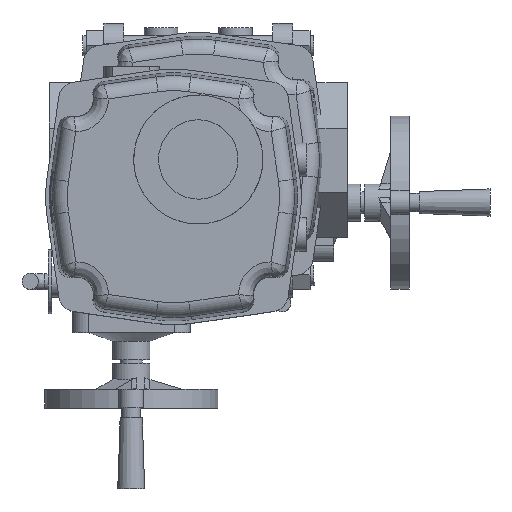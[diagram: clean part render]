
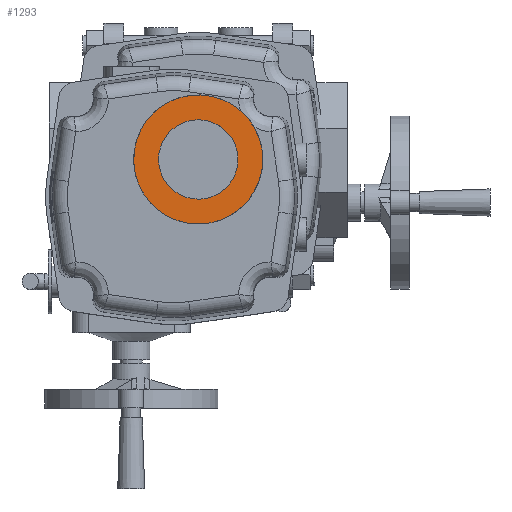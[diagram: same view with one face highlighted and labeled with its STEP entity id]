
A CAD part, top view. The second image highlights one B-rep face of the part: STEP entity #1293.
In plain terms, the highlighted planar face has unit normal (0, 0, 1).
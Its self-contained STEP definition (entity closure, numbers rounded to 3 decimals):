
#1293 = ADVANCED_FACE( '', ( #3025, #3026 ), #3027, .F. );
#3025 = FACE_BOUND( '', #8341, .T. );
#3026 = FACE_OUTER_BOUND( '', #8342, .T. );
#3027 = PLANE( '', #8343 );
#8341 = EDGE_LOOP( '', ( #16921 ) );
#8342 = EDGE_LOOP( '', ( #16922 ) );
#8343 = AXIS2_PLACEMENT_3D( '', #16923, #16924, #16925 );
#16921 = ORIENTED_EDGE( '', *, *, #21467, .T. );
#16922 = ORIENTED_EDGE( '', *, *, #20381, .F. );
#16923 = CARTESIAN_POINT( '', ( -30., 20., 132. ) );
#16924 = DIRECTION( '', ( 0., 0., -1. ) );
#16925 = DIRECTION( '', ( -1., 0., 0. ) );
#20381 = EDGE_CURVE( '', #22892, #22892, #22893, .T. );
#21467 = EDGE_CURVE( '', #24627, #24627, #24628, .T. );
#22892 = VERTEX_POINT( '', #27152 );
#22893 = CIRCLE( '', #27153, 52. );
#24627 = VERTEX_POINT( '', #34282 );
#24628 = CIRCLE( '', #34283, 32. );
#27152 = CARTESIAN_POINT( '', ( -37.499, -31.456, 132. ) );
#27153 = AXIS2_PLACEMENT_3D( '', #39130, #39131, #39132 );
#34282 = CARTESIAN_POINT( '', ( -34.615, -11.666, 132. ) );
#34283 = AXIS2_PLACEMENT_3D( '', #39980, #39981, #39982 );
#39130 = CARTESIAN_POINT( '', ( -30., 20., 132. ) );
#39131 = DIRECTION( '', ( 0., 0., -1. ) );
#39132 = DIRECTION( '', ( -0.144, -0.99, 0. ) );
#39980 = CARTESIAN_POINT( '', ( -30., 20., 132. ) );
#39981 = DIRECTION( '', ( 0., 0., -1. ) );
#39982 = DIRECTION( '', ( -0.144, -0.99, 0. ) );
